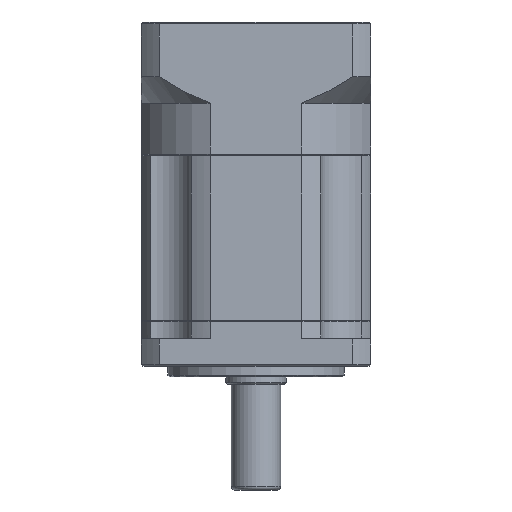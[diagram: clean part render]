
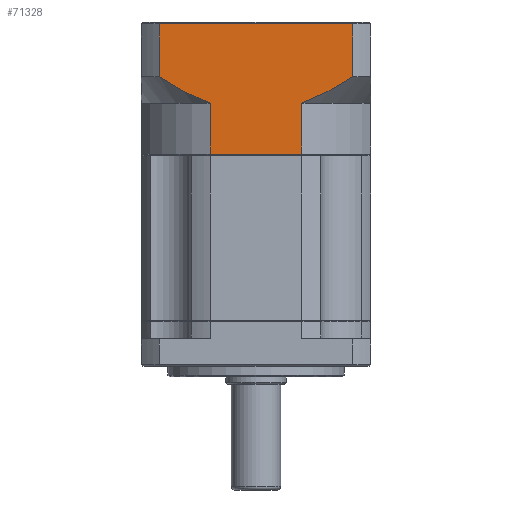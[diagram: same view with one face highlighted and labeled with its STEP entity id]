
A CAD part, front view. The second image highlights one B-rep face of the part: STEP entity #71328.
In plain terms, the highlighted planar face has unit normal (0, -1, 0).
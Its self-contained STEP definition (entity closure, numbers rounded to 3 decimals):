
#177 = CARTESIAN_POINT ( 'NONE',  ( -82.051, -7.96, 10.695 ) ) ;
#1901 = CARTESIAN_POINT ( 'NONE',  ( -30.686, -7.96, 11.424 ) ) ;
#2139 = EDGE_CURVE ( 'NONE', #41029, #54197, #94793, .T. ) ;
#3836 = VERTEX_POINT ( 'NONE', #7410 ) ;
#7410 = CARTESIAN_POINT ( 'NONE',  ( -29.548, -7.96, 27.157 ) ) ;
#9664 = B_SPLINE_CURVE_WITH_KNOTS ( 'NONE', 3,
 ( #28469, #38051, #95133, #123097, #93880, #28068, #122677, #103505, #177, #57182 ),
 .UNSPECIFIED., .F., .F.,
 ( 4, 2, 2, 2, 4 ),
 ( 0.101, 0.104, 0.106, 0.11, 0.118 ),
 .UNSPECIFIED. ) ;
#9981 = EDGE_CURVE ( 'NONE', #3836, #64253, #28994, .T. ) ;
#11306 = VERTEX_POINT ( 'NONE', #65272 ) ;
#12732 = CARTESIAN_POINT ( 'NONE',  ( -38.953, -7.96, 6.744 ) ) ;
#13361 = VECTOR ( 'NONE', #116270, 1000. ) ;
#14200 = DIRECTION ( 'NONE',  ( -1., 0., 0. ) ) ;
#15405 = ORIENTED_EDGE ( 'NONE', *, *, #29311, .F. ) ;
#20539 = LINE ( 'NONE', #64056, #27938 ) ;
#20801 = DIRECTION ( 'NONE',  ( 0., 0., 1. ) ) ;
#23867 = VERTEX_POINT ( 'NONE', #80583 ) ;
#24546 = DIRECTION ( 'NONE',  ( 0., 1., 0. ) ) ;
#27938 = VECTOR ( 'NONE', #65309, 1000. ) ;
#28068 = CARTESIAN_POINT ( 'NONE',  ( -74.944, -7.96, 6.797 ) ) ;
#28469 = CARTESIAN_POINT ( 'NONE',  ( -69.924, -7.96, 4.657 ) ) ;
#28994 = LINE ( 'NONE', #95988, #34972 ) ;
#29311 = EDGE_CURVE ( 'NONE', #64253, #104202, #109906, .T. ) ;
#31124 = LINE ( 'NONE', #39585, #13361 ) ;
#31345 = EDGE_CURVE ( 'NONE', #23867, #50201, #70880, .T. ) ;
#32412 = CARTESIAN_POINT ( 'NONE',  ( -43.944, -7.96, 4.657 ) ) ;
#34957 = CARTESIAN_POINT ( 'NONE',  ( -29.548, -7.96, 12.157 ) ) ;
#34972 = VECTOR ( 'NONE', #104799, 1000. ) ;
#36962 = ORIENTED_EDGE ( 'NONE', *, *, #111247, .F. ) ;
#38051 = CARTESIAN_POINT ( 'NONE',  ( -70.567, -7.96, 4.896 ) ) ;
#39585 = CARTESIAN_POINT ( 'NONE',  ( -24.434, -7.96, -9.754 ) ) ;
#39766 = CARTESIAN_POINT ( 'NONE',  ( -84.32, -7.96, 12.157 ) ) ;
#41029 = VERTEX_POINT ( 'NONE', #39766 ) ;
#41583 = EDGE_LOOP ( 'NONE', ( #84827, #104757, #115022, #36962, #97665, #108152, #98897, #15405 ) ) ;
#43577 = VECTOR ( 'NONE', #59515, 1000. ) ;
#44539 = FACE_OUTER_BOUND ( 'NONE', #41583, .T. ) ;
#50201 = VERTEX_POINT ( 'NONE', #52107 ) ;
#52107 = CARTESIAN_POINT ( 'NONE',  ( -69.924, -7.96, 4.657 ) ) ;
#54197 = VERTEX_POINT ( 'NONE', #97853 ) ;
#57182 = CARTESIAN_POINT ( 'NONE',  ( -84.32, -7.96, 12.157 ) ) ;
#59515 = DIRECTION ( 'NONE',  ( 0., 0., -1. ) ) ;
#64056 = CARTESIAN_POINT ( 'NONE',  ( -84.32, -7.96, 27.157 ) ) ;
#64253 = VERTEX_POINT ( 'NONE', #34957 ) ;
#65272 = CARTESIAN_POINT ( 'NONE',  ( -43.944, -7.96, -9.754 ) ) ;
#65309 = DIRECTION ( 'NONE',  ( -1., 0., 0. ) ) ;
#70880 = LINE ( 'NONE', #117039, #78317 ) ;
#71328 = ADVANCED_FACE ( 'NONE', ( #44539 ), #108736, .F. ) ;
#74431 = CARTESIAN_POINT ( 'NONE',  ( -84.32, -7.96, 9.657 ) ) ;
#75054 = AXIS2_PLACEMENT_3D ( 'NONE', #119152, #24546, #14200 ) ;
#78114 = CARTESIAN_POINT ( 'NONE',  ( -34.174, -7.96, 9.323 ) ) ;
#78317 = VECTOR ( 'NONE', #20801, 1000. ) ;
#80583 = CARTESIAN_POINT ( 'NONE',  ( -69.924, -7.96, -9.754 ) ) ;
#81359 = VECTOR ( 'NONE', #83157, 1000. ) ;
#83157 = DIRECTION ( 'NONE',  ( 0., 0., 1. ) ) ;
#84827 = ORIENTED_EDGE ( 'NONE', *, *, #9981, .F. ) ;
#89322 = CARTESIAN_POINT ( 'NONE',  ( -35.359, -7.96, 8.653 ) ) ;
#93880 = CARTESIAN_POINT ( 'NONE',  ( -73.09, -7.96, 5.947 ) ) ;
#94793 = LINE ( 'NONE', #74431, #81359 ) ;
#95133 = CARTESIAN_POINT ( 'NONE',  ( -71.206, -7.96, 5.148 ) ) ;
#95974 = EDGE_CURVE ( 'NONE', #23867, #11306, #31124, .T. ) ;
#95988 = CARTESIAN_POINT ( 'NONE',  ( -29.548, -7.96, 9.657 ) ) ;
#97665 = ORIENTED_EDGE ( 'NONE', *, *, #31345, .F. ) ;
#97853 = CARTESIAN_POINT ( 'NONE',  ( -84.32, -7.96, 27.157 ) ) ;
#98897 = ORIENTED_EDGE ( 'NONE', *, *, #116201, .F. ) ;
#103505 = CARTESIAN_POINT ( 'NONE',  ( -79.736, -7.96, 9.307 ) ) ;
#104202 = VERTEX_POINT ( 'NONE', #32412 ) ;
#104757 = ORIENTED_EDGE ( 'NONE', *, *, #118019, .T. ) ;
#104799 = DIRECTION ( 'NONE',  ( 0., 0., -1. ) ) ;
#107706 = CARTESIAN_POINT ( 'NONE',  ( -41.405, -7.96, 5.6 ) ) ;
#107897 = CARTESIAN_POINT ( 'NONE',  ( -43.944, -7.96, 4.657 ) ) ;
#108152 = ORIENTED_EDGE ( 'NONE', *, *, #95974, .T. ) ;
#108517 = CARTESIAN_POINT ( 'NONE',  ( -29.548, -7.96, 12.157 ) ) ;
#108736 = PLANE ( 'NONE',  #75054 ) ;
#109234 = LINE ( 'NONE', #107897, #43577 ) ;
#109906 = B_SPLINE_CURVE_WITH_KNOTS ( 'NONE', 3,
 ( #108517, #1901, #117700, #78114, #89322, #12732, #107706, #117304 ),
 .UNSPECIFIED., .F., .F.,
 ( 4, 2, 2, 4 ),
 ( 0.059, 0.063, 0.067, 0.075 ),
 .UNSPECIFIED. ) ;
#111247 = EDGE_CURVE ( 'NONE', #50201, #41029, #9664, .T. ) ;
#115022 = ORIENTED_EDGE ( 'NONE', *, *, #2139, .F. ) ;
#116201 = EDGE_CURVE ( 'NONE', #104202, #11306, #109234, .T. ) ;
#116270 = DIRECTION ( 'NONE',  ( 1., 0., 0. ) ) ;
#117039 = CARTESIAN_POINT ( 'NONE',  ( -69.924, -7.96, 4.657 ) ) ;
#117304 = CARTESIAN_POINT ( 'NONE',  ( -43.944, -7.96, 4.657 ) ) ;
#117700 = CARTESIAN_POINT ( 'NONE',  ( -31.838, -7.96, 10.708 ) ) ;
#118019 = EDGE_CURVE ( 'NONE', #3836, #54197, #20539, .T. ) ;
#119152 = CARTESIAN_POINT ( 'NONE',  ( -24.434, -7.96, 27.657 ) ) ;
#122677 = CARTESIAN_POINT ( 'NONE',  ( -76.156, -7.96, 7.402 ) ) ;
#123097 = CARTESIAN_POINT ( 'NONE',  ( -72.466, -7.96, 5.674 ) ) ;
